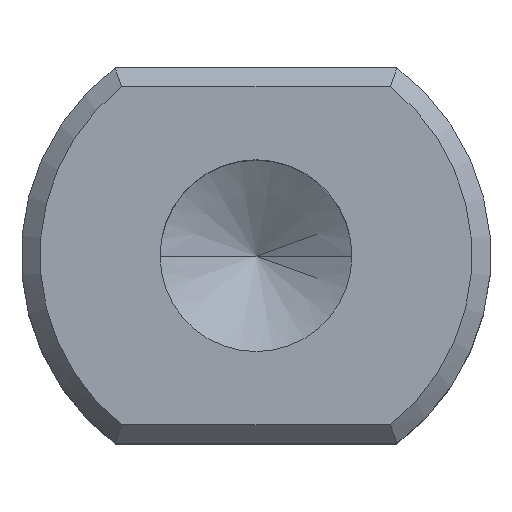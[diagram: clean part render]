
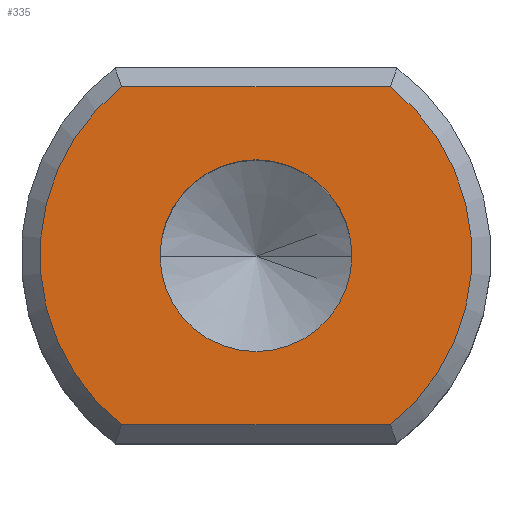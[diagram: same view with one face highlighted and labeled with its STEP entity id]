
A CAD part, top view. The second image highlights one B-rep face of the part: STEP entity #335.
In plain terms, the highlighted planar face has unit normal (0, 0, 1).
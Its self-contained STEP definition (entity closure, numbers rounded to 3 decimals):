
#32 = ORIENTED_EDGE ( 'NONE', *, *, #176, .F. ) ;
#57 = EDGE_LOOP ( 'NONE', ( #302, #583, #96, #180 ) ) ;
#60 = LINE ( 'NONE', #711, #161 ) ;
#62 = CARTESIAN_POINT ( 'NONE',  ( 3.579, -4.5, 0. ) ) ;
#68 = DIRECTION ( 'NONE',  ( -1., 0., 0. ) ) ;
#74 = VERTEX_POINT ( 'NONE', #154 ) ;
#78 = FACE_BOUND ( 'NONE', #420, .T. ) ;
#96 = ORIENTED_EDGE ( 'NONE', *, *, #631, .T. ) ;
#106 = EDGE_CURVE ( 'NONE', #339, #74, #566, .T. ) ;
#124 = CIRCLE ( 'NONE', #577, 5.75 ) ;
#126 = CARTESIAN_POINT ( 'NONE',  ( 0., 0., 0. ) ) ;
#134 = PLANE ( 'NONE',  #445 ) ;
#154 = CARTESIAN_POINT ( 'NONE',  ( 2.553, 0., 0. ) ) ;
#155 = DIRECTION ( 'NONE',  ( 0., 1., 0. ) ) ;
#158 = LINE ( 'NONE', #343, #511 ) ;
#160 = DIRECTION ( 'NONE',  ( 0., 0., 1. ) ) ;
#161 = VECTOR ( 'NONE', #68, 1000. ) ;
#170 = DIRECTION ( 'NONE',  ( 0., 0., 1. ) ) ;
#176 = EDGE_CURVE ( 'NONE', #74, #339, #459, .T. ) ;
#179 = FACE_OUTER_BOUND ( 'NONE', #57, .T. ) ;
#180 = ORIENTED_EDGE ( 'NONE', *, *, #709, .T. ) ;
#194 = CARTESIAN_POINT ( 'NONE',  ( 3.579, 4.5, 0. ) ) ;
#226 = CARTESIAN_POINT ( 'NONE',  ( 0., 0., 0. ) ) ;
#236 = CARTESIAN_POINT ( 'NONE',  ( -3.579, -4.5, 0. ) ) ;
#246 = DIRECTION ( 'NONE',  ( 0., 1., 0. ) ) ;
#302 = ORIENTED_EDGE ( 'NONE', *, *, #563, .T. ) ;
#329 = AXIS2_PLACEMENT_3D ( 'NONE', #385, #160, #383 ) ;
#335 = ADVANCED_FACE ( 'NONE', ( #78, #179 ), #134, .F. ) ;
#339 = VERTEX_POINT ( 'NONE', #694 ) ;
#343 = CARTESIAN_POINT ( 'NONE',  ( 0., -4.5, 0. ) ) ;
#357 = VERTEX_POINT ( 'NONE', #194 ) ;
#366 = CIRCLE ( 'NONE', #455, 5.75 ) ;
#383 = DIRECTION ( 'NONE',  ( 1., 0., 0. ) ) ;
#385 = CARTESIAN_POINT ( 'NONE',  ( 0., 0., 0. ) ) ;
#410 = VERTEX_POINT ( 'NONE', #600 ) ;
#420 = EDGE_LOOP ( 'NONE', ( #32, #521 ) ) ;
#424 = VERTEX_POINT ( 'NONE', #236 ) ;
#445 = AXIS2_PLACEMENT_3D ( 'NONE', #640, #528, #246 ) ;
#455 = AXIS2_PLACEMENT_3D ( 'NONE', #226, #170, #155 ) ;
#459 = CIRCLE ( 'NONE', #668, 2.553 ) ;
#503 = EDGE_CURVE ( 'NONE', #424, #664, #158, .T. ) ;
#511 = VECTOR ( 'NONE', #696, 1000. ) ;
#521 = ORIENTED_EDGE ( 'NONE', *, *, #106, .F. ) ;
#523 = DIRECTION ( 'NONE',  ( 0., 0., 1. ) ) ;
#527 = CARTESIAN_POINT ( 'NONE',  ( 0., 0., 0. ) ) ;
#528 = DIRECTION ( 'NONE',  ( 0., 0., -1. ) ) ;
#563 = EDGE_CURVE ( 'NONE', #410, #424, #366, .T. ) ;
#566 = CIRCLE ( 'NONE', #329, 2.553 ) ;
#577 = AXIS2_PLACEMENT_3D ( 'NONE', #527, #523, #654 ) ;
#583 = ORIENTED_EDGE ( 'NONE', *, *, #503, .T. ) ;
#598 = DIRECTION ( 'NONE',  ( 1., 0., 0. ) ) ;
#600 = CARTESIAN_POINT ( 'NONE',  ( -3.579, 4.5, 0. ) ) ;
#631 = EDGE_CURVE ( 'NONE', #664, #357, #124, .T. ) ;
#640 = CARTESIAN_POINT ( 'NONE',  ( 0., 0., 0. ) ) ;
#648 = DIRECTION ( 'NONE',  ( 0., 0., 1. ) ) ;
#654 = DIRECTION ( 'NONE',  ( 0., 1., 0. ) ) ;
#664 = VERTEX_POINT ( 'NONE', #62 ) ;
#668 = AXIS2_PLACEMENT_3D ( 'NONE', #126, #648, #598 ) ;
#694 = CARTESIAN_POINT ( 'NONE',  ( -2.553, 0., 0. ) ) ;
#696 = DIRECTION ( 'NONE',  ( 1., 0., 0. ) ) ;
#709 = EDGE_CURVE ( 'NONE', #357, #410, #60, .T. ) ;
#711 = CARTESIAN_POINT ( 'NONE',  ( 0., 4.5, 0. ) ) ;
